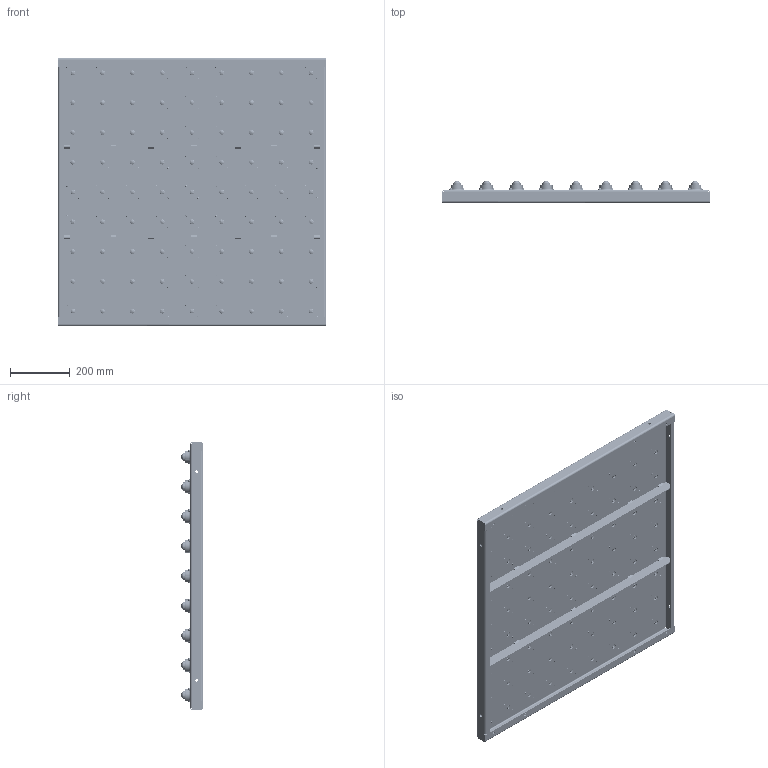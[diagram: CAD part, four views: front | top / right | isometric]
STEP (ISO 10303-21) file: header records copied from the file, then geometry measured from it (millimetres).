
FILE_DESCRIPTION(/* description */ ('','CAx-IF Rec.Pracs.---Representation and Presentation of Product Manufacturing Information (PMI)---4.0---2014-10-13'),/* implementation_level */ '2;1');
FILE_NAME(/* name */ 'IBT-900-100.stp',/* time_stamp */ '2023-11-14T19:18:13+09:00',/* author */ ('torikawa'),/* organization */ (''),/* preprocessor_version */ 'ST-DEVELOPER v19.2',/* originating_system */ 'Autodesk Inventor 2023',/* authorisation */ '');
FILE_SCHEMA (('AP242_MANAGED_MODEL_BASED_3D_ENGINEERING_MIM_LF { 1 0 10303 442 1 1 4 }'));
Length unit declared in the file: millimetre
Products named in the file (7): IBT900-100-AA; P130-0003; P130-0003_1; P132-0004; P132-0005; IM-25; PSET5-8
Assembly tree (248 placements, depth 3):
  IBT900-100-AA
    P130-0003
      P130-0003_1
      P132-0004
      P132-0005  x2
    PSET5-8  x162
    IM-25  x81
Bounding box: 900 x 73.92 x 900 mm (x, y, z)
Volume: 4972805.6 mm3; surface area: 3272539 mm2
Topology: 264 solids, 264 shells, 11106 faces, 27308 edges, 17945 vertices
Faces by surface type: plane 5295, cylinder 3543, torus 1296, cone 486, sphere 486
Full cylindrical faces by diameter (mm): 3 x81, 4.134 x162, 4.509 x162, 5 x162, 5.3 x162, 5.5 x162, 9 x16, 10 x162, 16 x81, 28.4 x81, 37.5 x81, 40.5 x81, 41.2 x81, 42.5 x81
Entity records: 29500 total; most frequent: CARTESIAN_POINT 6703, DIRECTION 4892, ORIENTED_EDGE 3022, AXIS2_PLACEMENT_3D 2077, STYLED_ITEM 1637, EDGE_CURVE 1511, CIRCLE 1187, EDGE_LOOP 1122
